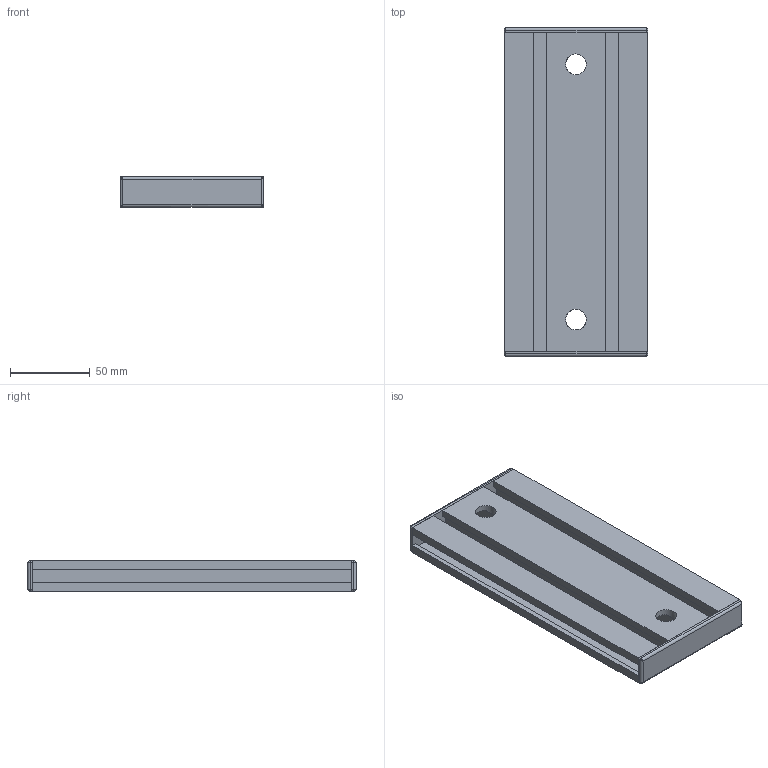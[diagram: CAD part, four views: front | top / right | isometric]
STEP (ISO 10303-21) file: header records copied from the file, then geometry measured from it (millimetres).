
FILE_DESCRIPTION((''),'2;1');
FILE_NAME('C:\Documents and Settings\Administrator\My Documents\Andys Backup Data\ANDY''S INVENTOR\INVENTOR LIBRARIES\MINITEC INVENTOR LIBRARIES\FEET WHEELS FLOOR FASTENING SUPPORTS\A PACKED FILES\STEP FILES\21.1733 FLOOR MOUNTING PLATE 90.stp','2010-06-28T08:42:50',('Administrator'),(''),'Autodesk Inventor 2009','Autodesk Inventor 2009','');
FILE_SCHEMA(('CONFIG_CONTROL_DESIGN'));
Length unit declared in the file: millimetre
Products named in the file (3): 21.1733 FLOOR MOUNTING PLATE 90; 22.1053_1 END CAP 90X19 GRAY
Assembly tree (3 placements, depth 2):
  21.1733 FLOOR MOUNTING PLATE 90
    21.1733 FLOOR MOUNTING PLATE 90
    22.1053_1 END CAP 90X19 GRAY  x2
Bounding box: 90 x 206 x 19 mm (x, y, z)
Volume: 147996.1 mm3; surface area: 108551.8 mm2
Topology: 3 solids, 3 shells, 189 faces, 495 edges, 290 vertices
Faces by surface type: plane 106, cylinder 59, sphere 16, bspline 8
Full cylindrical faces by diameter (mm): 13 x2
Entity records: 4493 total; most frequent: CARTESIAN_POINT 982, ORIENTED_EDGE 718, DIRECTION 713, EDGE_CURVE 359, VECTOR 283, LINE 283, VERTEX_POINT 228, AXIS2_PLACEMENT_3D 215
